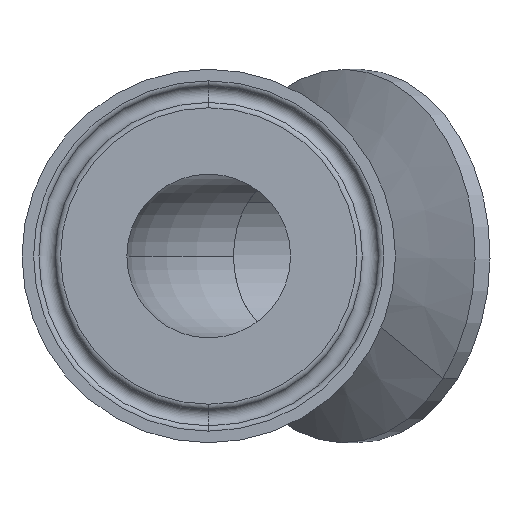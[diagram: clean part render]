
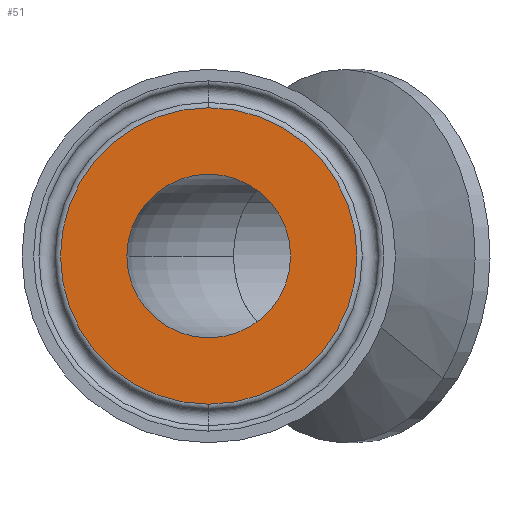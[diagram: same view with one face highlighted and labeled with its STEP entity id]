
A CAD part, front view. The second image highlights one B-rep face of the part: STEP entity #51.
In plain terms, the highlighted planar face has unit normal (0, -1, 0).
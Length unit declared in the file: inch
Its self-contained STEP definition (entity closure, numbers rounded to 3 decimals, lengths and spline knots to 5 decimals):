
#10 = CARTESIAN_POINT ( 'NONE',  ( 0., 0., -0.435 ) ) ;
#24 = EDGE_LOOP ( 'NONE', ( #519, #208 ) ) ;
#26 = DIRECTION ( 'NONE',  ( 0., -1., 0. ) ) ;
#51 = ADVANCED_FACE ( 'NONE', ( #361, #585 ), #570, .F. ) ;
#70 = ORIENTED_EDGE ( 'NONE', *, *, #385, .T. ) ;
#100 = EDGE_CURVE ( 'NONE', #179, #778, #930, .T. ) ;
#136 = VERTEX_POINT ( 'NONE', #189 ) ;
#179 = VERTEX_POINT ( 'NONE', #10 ) ;
#189 = CARTESIAN_POINT ( 'NONE',  ( 0., 0., 0.78742 ) ) ;
#208 = ORIENTED_EDGE ( 'NONE', *, *, #295, .F. ) ;
#210 = DIRECTION ( 'NONE',  ( 0., -1., 0. ) ) ;
#271 = CIRCLE ( 'NONE', #947, 0.78742 ) ;
#295 = EDGE_CURVE ( 'NONE', #778, #179, #537, .T. ) ;
#319 = DIRECTION ( 'NONE',  ( 0., 0., -1. ) ) ;
#325 = DIRECTION ( 'NONE',  ( 0., -1., 0. ) ) ;
#346 = CARTESIAN_POINT ( 'NONE',  ( 0., 0., 0. ) ) ;
#361 = FACE_BOUND ( 'NONE', #24, .T. ) ;
#385 = EDGE_CURVE ( 'NONE', #136, #961, #871, .T. ) ;
#391 = AXIS2_PLACEMENT_3D ( 'NONE', #661, #210, #736 ) ;
#409 = EDGE_CURVE ( 'NONE', #961, #136, #271, .T. ) ;
#475 = CARTESIAN_POINT ( 'NONE',  ( 0., 0., 0. ) ) ;
#490 = DIRECTION ( 'NONE',  ( 0., 1., 0. ) ) ;
#519 = ORIENTED_EDGE ( 'NONE', *, *, #100, .F. ) ;
#537 = CIRCLE ( 'NONE', #391, 0.435 ) ;
#539 = EDGE_LOOP ( 'NONE', ( #779, #70 ) ) ;
#551 = DIRECTION ( 'NONE',  ( 0., 0., -1. ) ) ;
#570 = PLANE ( 'NONE',  #711 ) ;
#585 = FACE_OUTER_BOUND ( 'NONE', #539, .T. ) ;
#601 = DIRECTION ( 'NONE',  ( 0., -1., 0. ) ) ;
#659 = CARTESIAN_POINT ( 'NONE',  ( 0., 0., -0.78742 ) ) ;
#661 = CARTESIAN_POINT ( 'NONE',  ( 0., 0., 0. ) ) ;
#710 = CARTESIAN_POINT ( 'NONE',  ( 0., 0., 0.435 ) ) ;
#711 = AXIS2_PLACEMENT_3D ( 'NONE', #719, #490, #760 ) ;
#719 = CARTESIAN_POINT ( 'NONE',  ( 0., 0., 0. ) ) ;
#736 = DIRECTION ( 'NONE',  ( 0., 0., -1. ) ) ;
#760 = DIRECTION ( 'NONE',  ( 0., 0., 1. ) ) ;
#774 = CARTESIAN_POINT ( 'NONE',  ( 0., 0., 0. ) ) ;
#778 = VERTEX_POINT ( 'NONE', #710 ) ;
#779 = ORIENTED_EDGE ( 'NONE', *, *, #409, .T. ) ;
#813 = AXIS2_PLACEMENT_3D ( 'NONE', #346, #601, #319 ) ;
#848 = DIRECTION ( 'NONE',  ( 0., 0., -1. ) ) ;
#871 = CIRCLE ( 'NONE', #896, 0.78742 ) ;
#896 = AXIS2_PLACEMENT_3D ( 'NONE', #774, #325, #848 ) ;
#930 = CIRCLE ( 'NONE', #813, 0.435 ) ;
#947 = AXIS2_PLACEMENT_3D ( 'NONE', #475, #26, #551 ) ;
#961 = VERTEX_POINT ( 'NONE', #659 ) ;
